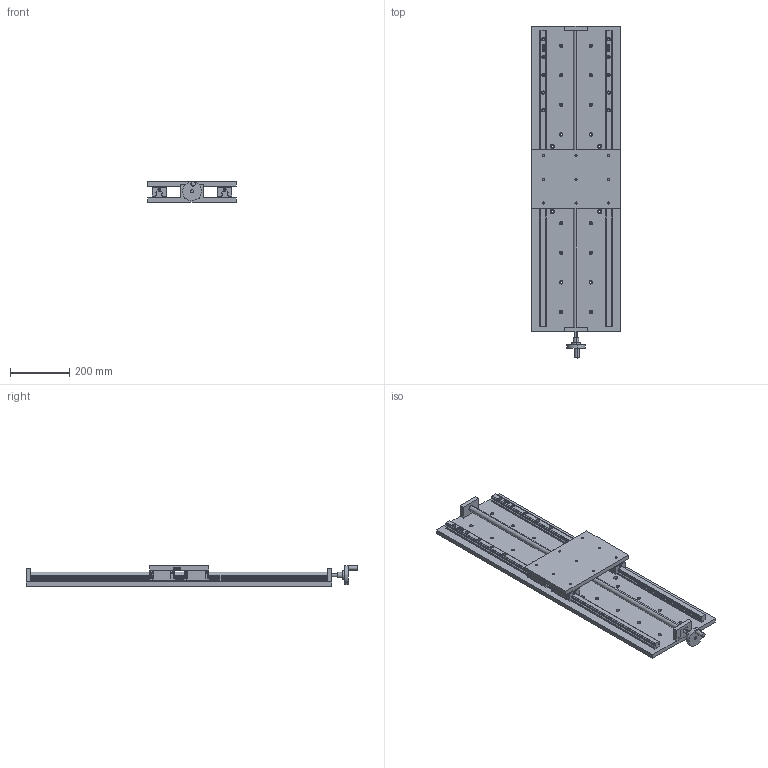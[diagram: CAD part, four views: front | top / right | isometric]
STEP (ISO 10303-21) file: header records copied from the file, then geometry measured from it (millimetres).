
FILE_DESCRIPTION (( 'STEP AP214' ), '1' );
FILE_NAME ('PT300-800.STEP', '2022-09-18T06:18:00', ( '' ), ( '' ), 'SwSTEP 2.0', 'SolidWorks 2017', '' );
FILE_SCHEMA (( 'AUTOMOTIVE_DESIGN' ));
Length unit declared in the file: millimetre
Products named in the file (12): HGH25C__X2_53F35C01_X0__temp; PT300-800; M6H; 菁啣-800; 醱啣; HGH25CA2R300Z0C_GW202204023669; 忒謫; 34320001; 標踡輸; HGH25C__X2_5DE65C01_X0__temp; HGR25_temp-800; 標踡
Assembly tree (12 placements, depth 3):
  PT300-800
    菁啣-800
    醱啣
    HGH25CA2R300Z0C_GW202204023669  x2
      HGR25_temp-800
      HGH25C__X2_53F35C01_X0__temp
      M6H
      HGH25C__X2_5DE65C01_X0__temp
      34320001
    標踡
      標踡輸
      忒謫
Bounding box: 300 x 1122.1 x 70.06 mm (x, y, z)
Volume: 7262072 mm3; surface area: 1213921.4 mm2
Topology: 31 solids, 33 shells, 3069 faces, 8590 edges, 5670 vertices
Faces by surface type: plane 1997, cylinder 806, bspline 202, cone 56, torus 8
Entity records: 74813 total; most frequent: CARTESIAN_POINT 15006, ORIENTED_EDGE 9520, DIRECTION 8640, EDGE_CURVE 4760, VECTOR 3430, LINE 3430, VERTEX_POINT 3159, AXIS2_PLACEMENT_3D 2605
